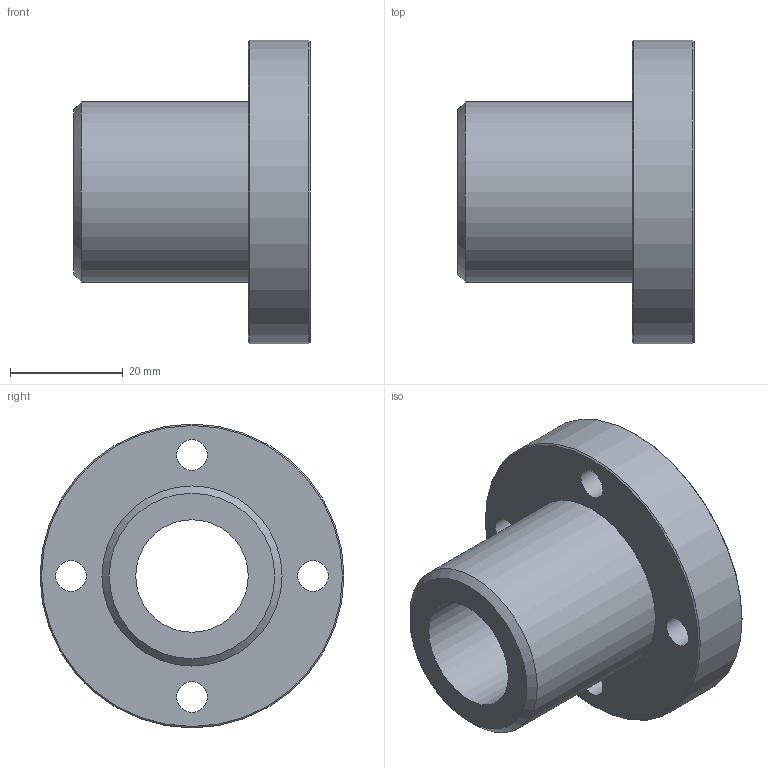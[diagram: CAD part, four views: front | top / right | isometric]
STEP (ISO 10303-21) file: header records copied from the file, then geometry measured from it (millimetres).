
FILE_DESCRIPTION(('STEP AP203'),'1');
FILE_NAME('//192.168.1.1/share/s-4 技術開発/s-4-4_CAD/s-4-4-3_見直し済み/PBC LINEAR修正済み/3D途中/SFPJ/SFPJR/SFPJR20.step','2022-03-24T06:31:27',(' '),(' '),'Spatial InterOp 3D',' ',' ');
FILE_SCHEMA(('CONFIG_CONTROL_DESIGN'));
Length unit declared in the file: millimetre
Products named in the file (1): 1
Bounding box: 42 x 54 x 54 mm (x, y, z)
Volume: 34977.4 mm3; surface area: 12238.7 mm2
Topology: 1 solids, 1 shells, 21 faces, 44 edges, 30 vertices
Faces by surface type: cylinder 11, plane 7, cone 3
Full cylindrical faces by diameter (mm): 5.5 x4, 9 x4, 20 x1, 32 x1, 54 x1
Entity records: 528 total; most frequent: DIRECTION 94, CARTESIAN_POINT 72, EDGE_LOOP 50, ORIENTED_EDGE 50, AXIS2_PLACEMENT_3D 47, FACE_OUTER_BOUND 32, EDGE_CURVE 25, VERTEX_POINT 25
